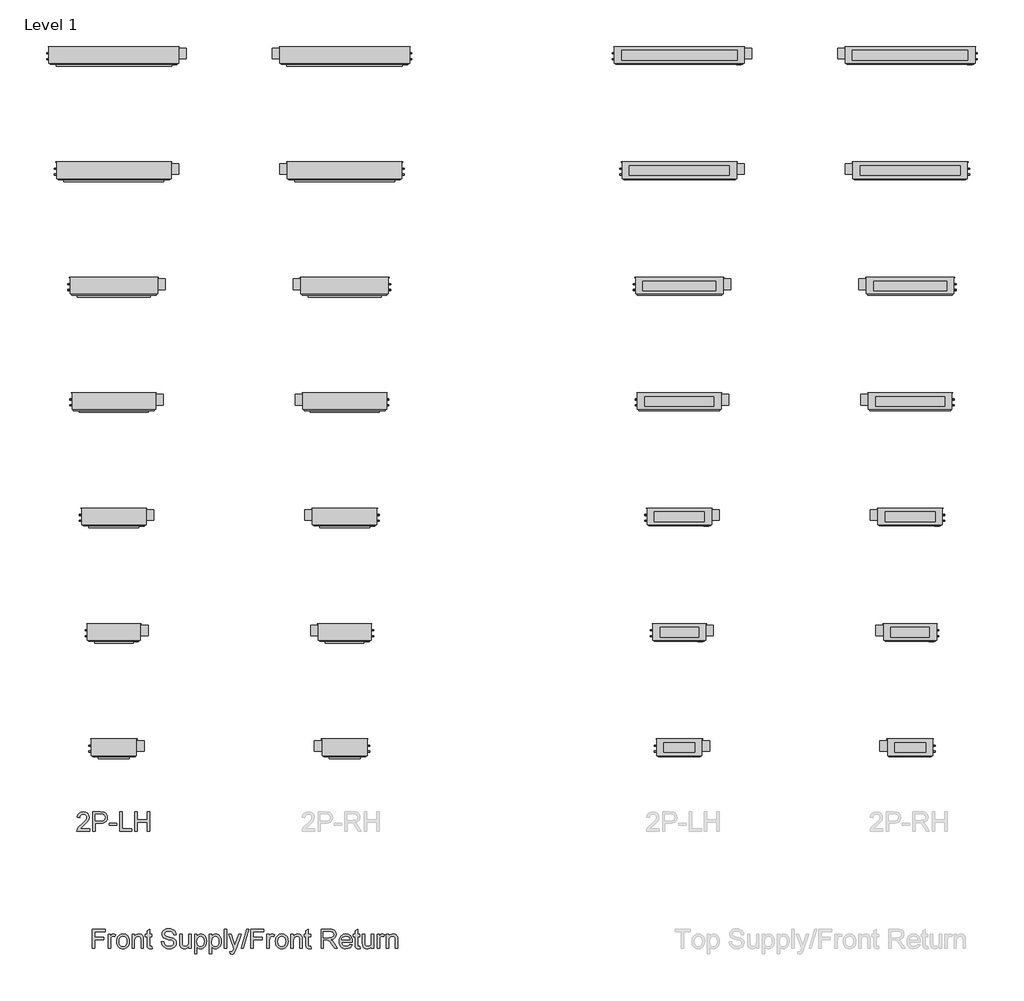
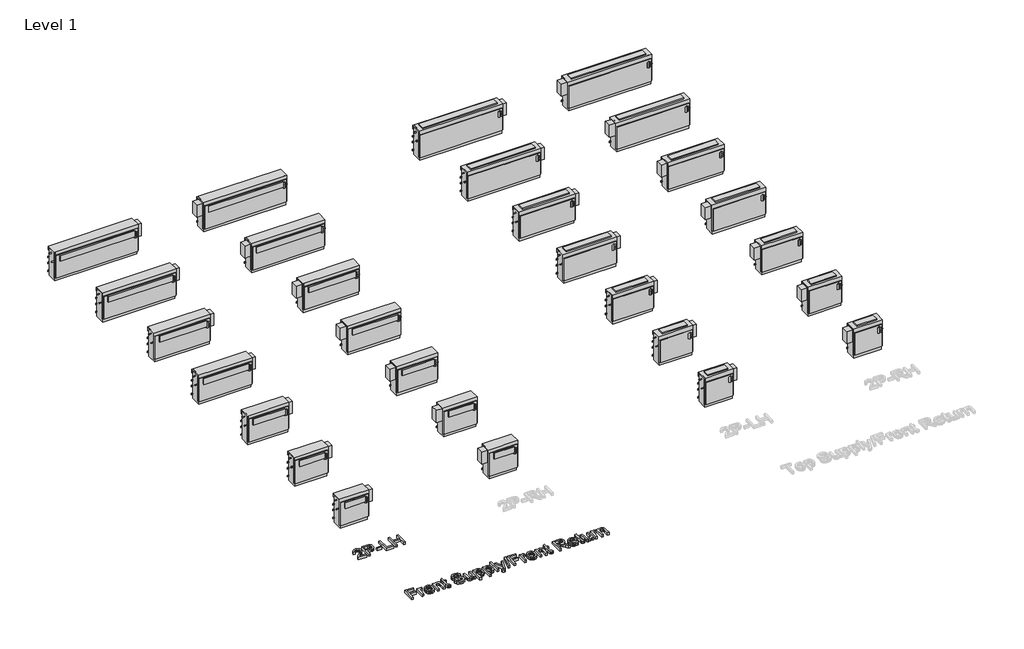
# One storey, part 1 of 2: 30 proxies.
"""IFC4 building model written with IfcOpenShell, lengths in millimetres."""

from ifc_helpers import new_model, si_unit, origin, origin_with_axes, place, context, project, spatial, polyline, outline, extrude, transform, mapped, element, save
from components import ghy_02_9b4a4b5f, ghy_02_a7a851d1, ghy_02_1b58b239, ghy_02_7dbef071, ghy_03_b27926b6, ghy_03_e5b2f905, ghy_03_1ddc801b, ghy_03_13433400, ghy_04_a8ed0f7e, ghy_04_f5d8f7c7, ghy_04_74227bf3, ghy_04_6b61c7ca, ghy_06_2a17fef1, ghy_06_2601881b, ghy_06_bd7a61ff, ghy_06_6341c722, ghy_08_79be1acd, ghy_08_3972cffb, ghy_08_0816bc91, ghy_08_5180b133, ghy_10_f1c1fad6, ghy_10_a8db0796, ghy_10_11aaa538, ghy_10_05654b98, ghy_12_f6d3734e, ghy_12_c026222b, ghy_12_9496aa0a, ghy_12_006c4f98

model = new_model("IFC4")

# Units and contexts
model_context = context("Model", 3, world=origin())
ifc_project = project(units=[si_unit("LENGTHUNIT", "METRE", prefix="MILLI")], contexts=[model_context])

# Site, building, storey
site = spatial("IfcSite", under=ifc_project)
building = spatial("IfcBuilding", under=site)
storey = spatial("IfcBuildingStorey", under=building, Name="Level 1", Elevation=0.0)

# Proxies
placement = place(None, origin())
element("IfcBuildingElementProxy", 1, Name="24\" Arial", ObjectType="24\" Arial", at=placement, inside=storey, context=model_context, shape_type="SweptSolid", body=[
    extrude(outline(polyline([(-19722.253563, -2284.938898), (-19722.253563, -2316.8337764), (-19889.701675, -2316.8337764), (-19886.2754673, -2294.8437528), (-19878.4107634, -2277.6582067), (-19866.9018205, -2260.9865918), (-19826.9709277, -2224.0146965), (-19792.5531145, -2193.4435801), (-19771.9024266, -2170.8773306), (-19761.5770826, -2152.5626934), (-19758.1353013, -2134.7464136), (-19761.3824117, -2118.7756138), (-19771.123743, -2105.4990592), (-19786.0978278, -2096.5519851), (-19805.0431987, -2093.5696271), (-19824.9385636, -2096.4819036), (-19840.3954322, -2105.2187331), (-19850.3703686, -2119.0948741), (-19853.8199367, -2137.425085), (-19885.7148152, -2133.4382252), (-19877.9824875, -2102.5867827), (-19861.2641515, -2080.0516806), (-19836.4319329, -2066.2689816), (-19804.3579572, -2061.6747487), (-19772.0503764, -2066.7829128), (-19747.2648788, -2082.1074052), (-19731.4965368, -2105.0007017), (-19726.2404228, -2132.8152784), (-19731.9092391, -2163.0593477), (-19750.7533812, -2194.3312793), (-19796.4465323, -2238.0310005), (-19833.1381014, -2268.7111326), (-19847.5281736, -2284.938898), (-19722.253563, -2284.938898)])), origin_with_axes(), (0.0, 0.0, 1.0), 50.8),
    extrude(outline(polyline([(-19678.3981051, -2316.8337764), (-19678.3981051, -2061.6747487), (-19583.834774, -2061.6747487), (-19545.7104271, -2064.1042414), (-19528.7117651, -2068.6439665), (-19514.7188215, -2076.0336734), (-19503.4512705, -2086.6081961), (-19494.6287858, -2100.7023685), (-19488.9288222, -2117.3272624), (-19487.0288343, -2135.4939498), (-19492.1603589, -2165.5667088), (-19507.5549328, -2190.6247456), (-19519.8834402, -2200.4906663), (-19536.3428639, -2207.5377525), (-19556.9332038, -2211.7660042), (-19581.6544601, -2213.1754214), (-19646.5032266, -2213.1754214), (-19646.5032266, -2316.8337764), (-19678.3981051, -2316.8337764)]), holes=[polyline([(-19646.5032266, -2181.2805429), (-19579.7856195, -2181.2805429), (-19551.5038327, -2178.3526928), (-19532.8154274, -2169.5691422), (-19522.3966414, -2155.4749699), (-19518.9237127, -2136.6152541), (-19520.9716505, -2122.2874767), (-19527.1154638, -2110.2023079), (-19536.5920426, -2101.107284), (-19548.6382773, -2095.7499411), (-19580.5331557, -2093.5696271), (-19646.5032266, -2093.5696271), (-19646.5032266, -2181.2805429)])]), origin_with_axes(), (0.0, 0.0, 1.0), 50.8),
    extrude(outline(polyline([(-19463.1076754, -2241.0834401), (-19463.1076754, -2209.1885616), (-19363.4361802, -2209.1885616), (-19363.4361802, -2241.0834401), (-19463.1076754, -2241.0834401)])), origin_with_axes(), (0.0, 0.0, 1.0), 50.8),
    extrude(outline(polyline([(-19323.5675821, -2316.8337764), (-19323.5675821, -2061.6747487), (-19291.6727036, -2061.6747487), (-19291.6727036, -2284.938898), (-19164.0931897, -2284.938898), (-19164.0931897, -2316.8337764), (-19323.5675821, -2316.8337764)])), origin_with_axes(), (0.0, 0.0, 1.0), 50.8),
    extrude(outline(polyline([(-19128.2114515, -2316.8337764), (-19128.2114515, -2061.6747487), (-19096.316573, -2061.6747487), (-19096.316573, -2165.3331037), (-18960.7633395, -2165.3331037), (-18960.7633395, -2061.6747487), (-18928.868461, -2061.6747487), (-18928.868461, -2316.8337764), (-18960.7633395, -2316.8337764), (-18960.7633395, -2197.2279822), (-19096.316573, -2197.2279822), (-19096.316573, -2316.8337764), (-19128.2114515, -2316.8337764)])), origin_with_axes(), (0.0, 0.0, 1.0), 50.8),
])
element("IfcBuildingElementProxy", 2, Name="24\" Arial", ObjectType="24\" Arial", at=placement, inside=storey, context=model_context, shape_type="SweptSolid", body=[
    extrude(outline(polyline([(-19688.2981561, -3865.3936295), (-19688.2981561, -3610.2346017), (-19516.8631843, -3610.2346017), (-19516.8631843, -3642.1294801), (-19656.4032777, -3642.1294801), (-19656.4032777, -3717.8798165), (-19536.7974834, -3717.8798165), (-19536.7974834, -3749.774695), (-19656.4032777, -3749.774695), (-19656.4032777, -3865.3936295), (-19688.2981561, -3865.3936295)])), origin_with_axes(), (0.0, 0.0, 1.0), 50.8),
    extrude(outline(polyline([(-19476.9945863, -3865.3936295), (-19476.9945863, -3678.0112184), (-19449.0865676, -3678.0112184), (-19449.0865676, -3705.732353), (-19438.7767973, -3689.6603244), (-19429.2768579, -3680.1915324), (-19419.7457712, -3675.5661521), (-19409.3425589, -3674.0243586), (-19393.4574143, -3676.4849987), (-19377.323091, -3683.8669188), (-19387.9754821, -3712.460179), (-19410.4015685, -3705.9192371), (-19419.9248684, -3707.4921779), (-19428.4358797, -3712.2110002), (-19435.3116555, -3719.7175097), (-19439.929249, -3729.6535119), (-19445.0997078, -3766.9057332), (-19445.0997078, -3865.3936295), (-19476.9945863, -3865.3936295)])), origin_with_axes(), (0.0, 0.0, 1.0), 50.8),
    extrude(outline(polyline([(-19365.3625116, -3771.7024239), (-19363.6377275, -3747.4347509), (-19358.4633753, -3726.523204), (-19349.8394549, -3708.9677832), (-19337.7659664, -3694.7684886), (-19312.1939984, -3679.2103911), (-19281.5761609, -3674.0243586), (-19263.9798593, -3675.6031395), (-19248.0694075, -3680.3394823), (-19233.8448056, -3688.2333868), (-19221.3060537, -3699.2848532), (-19211.072205, -3713.1201133), (-19203.7623131, -3729.365399), (-19199.376378, -3748.0207103), (-19197.9143996, -3769.0860472), (-19200.499629, -3801.3079728), (-19208.2553172, -3825.8365048), (-19220.9556461, -3844.2056499), (-19238.3747972, -3857.9494147), (-19259.0644193, -3866.5227206), (-19281.5761609, -3869.3804893), (-19299.4294282, -3867.8075485), (-19315.4878298, -3863.0887261), (-19329.7513659, -3855.2240222), (-19342.2200363, -3844.2134367), (-19352.3448692, -3830.2438537), (-19359.5768928, -3813.5021573), (-19363.9161069, -3793.9883473), (-19365.3625116, -3771.7024239)]), holes=[polyline([(-19333.4676331, -3771.6401293), (-19329.7766731, -3800.5059287), (-19318.7037929, -3821.0709614), (-19302.0399648, -3833.3819484), (-19281.5761609, -3837.4856108), (-19261.2057991, -3833.3585879), (-19244.5731183, -3820.9775194), (-19233.5002381, -3800.1399474), (-19229.8092781, -3770.6434143), (-19233.5235987, -3742.6185931), (-19244.6665603, -3722.3338865), (-19261.3226016, -3710.0228994), (-19281.5761609, -3705.9192371), (-19302.0399648, -3710.0073258), (-19318.7037929, -3722.2715918), (-19329.7766731, -3742.7899035), (-19333.4676331, -3771.6401293)])]), origin_with_axes(), (0.0, 0.0, 1.0), 50.8),
    extrude(outline(polyline([(-19162.0326613, -3865.3936295), (-19162.0326613, -3678.0112184), (-19130.1377829, -3678.0112184), (-19130.1377829, -3704.1749859), (-19119.0571159, -3690.9840865), (-19105.7494139, -3681.5620154), (-19090.2146769, -3675.9087728), (-19072.452905, -3674.0243586), (-19056.731284, -3675.5427916), (-19042.333425, -3680.0980904), (-19030.3261246, -3687.121816), (-19021.7761791, -3696.0455296), (-19012.2139451, -3719.4994783), (-19010.5319886, -3750.3353472), (-19010.5319886, -3865.3936295), (-19042.4268671, -3865.3936295), (-19042.4268671, -3754.6336804), (-19046.1022535, -3726.4141883), (-19051.1870571, -3718.0121927), (-19059.0906952, -3711.4946114), (-19080.9872768, -3705.9192371), (-19099.6678953, -3709.049545), (-19115.591974, -3718.4404687), (-19126.5013307, -3736.5837955), (-19130.1377829, -3765.971313), (-19130.1377829, -3865.3936295), (-19162.0326613, -3865.3936295)])), origin_with_axes(), (0.0, 0.0, 1.0), 50.8),
    extrude(outline(polyline([(-18898.8999139, -3838.7937992), (-18894.9130541, -3866.3280497), (-18918.7719183, -3869.3804893), (-18934.080837, -3868.0567272), (-18945.496338, -3864.0854411), (-18958.8274004, -3850.1937264), (-18962.6896709, -3814.0005147), (-18962.6896709, -3709.9060969), (-18986.6108297, -3709.9060969), (-18986.6108297, -3678.0112184), (-18962.6896709, -3678.0112184), (-18962.6896709, -3632.473804), (-18930.7947924, -3613.723104), (-18930.7947924, -3678.0112184), (-18898.8999139, -3678.0112184), (-18898.8999139, -3709.9060969), (-18930.7947924, -3709.9060969), (-18930.7947924, -3813.0660945), (-18929.1128359, -3829.5118912), (-18923.662051, -3835.3364442), (-18912.7916286, -3837.4856108), (-18898.8999139, -3838.7937992)])), origin_with_axes(), (0.0, 0.0, 1.0), 50.8),
    extrude(outline(polyline([(-18775.3072599, -3777.6827137), (-18743.4123814, -3777.6827137), (-18739.7525687, -3795.3821909), (-18733.1337584, -3809.6087395), (-18722.8084145, -3820.899651), (-18708.0290006, -3829.7922173), (-18689.9635421, -3835.5622624), (-18669.7800643, -3837.4856108), (-18652.0105055, -3836.0294725), (-18636.4524081, -3831.6610578), (-18623.8455213, -3824.7463478), (-18614.9295946, -3815.6513239), (-18609.6267595, -3805.2091774), (-18607.8591479, -3794.2530997), (-18613.1541961, -3774.349948), (-18621.2213577, -3766.4774573), (-18634.8327463, -3759.8664339), (-18681.2734336, -3747.6878231), (-18731.2649179, -3731.9584152), (-18747.1422756, -3721.2281558), (-18758.394253, -3708.2241404), (-18765.0987184, -3693.2266951), (-18767.3335402, -3676.516146), (-18764.5692136, -3657.8355275), (-18756.2762337, -3640.4163763), (-18742.672632, -3625.6525361), (-18723.9764398, -3614.9378504), (-18701.5347797, -3608.420269), (-18676.6947743, -3606.2477419), (-18649.7834706, -3608.5214978), (-18626.2360798, -3615.3427658), (-18606.8935803, -3626.5713827), (-18592.5969502, -3642.0671855), (-18583.5486472, -3660.8646065), (-18579.9511292, -3681.9980782), (-18611.8460077, -3681.9980782), (-18617.701708, -3662.9670521), (-18629.9114662, -3649.2310742), (-18648.9892133, -3640.9147338), (-18675.4488806, -3638.1426203), (-18702.5314947, -3640.8835865), (-18721.1108843, -3649.1064848), (-18731.8567174, -3661.2072273), (-18735.4386618, -3675.5817257), (-18732.9001534, -3687.8382049), (-18725.2846282, -3697.6963387), (-18707.2814644, -3706.5110366), (-18673.2062719, -3715.5126185), (-18616.7672878, -3731.5223524), (-18598.5850267, -3743.0935901), (-18585.9002716, -3757.3746465), (-18578.4482699, -3774.209785), (-18575.9642694, -3793.4432688), (-18578.8220381, -3813.1050286), (-18587.395344, -3831.5987631), (-18601.3337797, -3847.515055), (-18620.2869374, -3859.4444871), (-18643.0790051, -3866.8964887), (-18668.5341706, -3869.3804893), (-18699.7827417, -3866.7018178), (-18725.5026596, -3858.6658035), (-18745.989824, -3845.241299), (-18761.5401346, -3826.3971569), (-18771.5228578, -3803.4415657), (-18775.3072599, -3777.6827137)])), origin_with_axes(), (0.0, 0.0, 1.0), 50.8),
    extrude(outline(polyline([(-18412.5030172, -3865.3936295), (-18412.5030172, -3833.1872776), (-18424.0431075, -3849.0218077), (-18437.4831857, -3860.3321863), (-18452.8232518, -3867.1184135), (-18470.0633057, -3869.3804893), (-18485.5980427, -3867.7919748), (-18500.0581963, -3863.0264314), (-18512.1900861, -3855.8625427), (-18520.7400316, -3847.0789922), (-18530.239971, -3823.5938961), (-18532.1088115, -3793.9416263), (-18532.1088115, -3678.0112184), (-18500.213933, -3678.0112184), (-18500.213933, -3778.9286073), (-18498.2827978, -3811.4464327), (-18493.634057, -3822.2934946), (-18485.6681242, -3830.5397535), (-18474.9145043, -3835.7491465), (-18461.9027021, -3837.4856108), (-18448.1433636, -3835.7102123), (-18435.2717244, -3830.3840168), (-18424.6582675, -3821.9975949), (-18417.673476, -3811.0415172), (-18413.7956319, -3796.0362851), (-18412.5030172, -3775.5023997), (-18412.5030172, -3678.0112184), (-18380.6081388, -3678.0112184), (-18380.6081388, -3865.3936295), (-18412.5030172, -3865.3936295)])), origin_with_axes(), (0.0, 0.0, 1.0), 50.8),
    extrude(outline(polyline([(-18336.7526809, -3937.157106), (-18336.7526809, -3678.0112184), (-18304.8578024, -3678.0112184), (-18304.8578024, -3709.2831501), (-18294.4545901, -3693.8574288), (-18282.8054841, -3682.8390565), (-18269.2252428, -3676.2280331), (-18253.0286249, -3674.0243586), (-18231.4590904, -3677.1079455), (-18212.5993746, -3686.3587062), (-18197.2437349, -3701.2159884), (-18186.1864284, -3721.1191401), (-18179.5053235, -3744.6198098), (-18177.2782885, -3770.2696462), (-18179.7934364, -3797.5469312), (-18187.33888, -3821.943087), (-18199.6732276, -3842.2200068), (-18216.5550871, -3857.1395838), (-18236.2168469, -3866.3202629), (-18256.8908953, -3869.3804893), (-18271.5535067, -3867.3325515), (-18284.6431773, -3861.1887382), (-18304.8578024, -3840.4757556), (-18304.8578024, -3937.157106), (-18336.7526809, -3937.157106)]), holes=[polyline([(-18304.8578024, -3773.1974964), (-18301.4082342, -3801.7907566), (-18291.0595298, -3821.7873503), (-18275.7895452, -3833.5610457), (-18257.5761368, -3837.4856108), (-18239.0668287, -3833.4208826), (-18223.4075024, -3821.2266981), (-18212.7317508, -3800.4981419), (-18209.173167, -3770.8302984), (-18212.6460956, -3742.3927749), (-18223.0648816, -3722.1158551), (-18238.3115057, -3709.9683916), (-18256.2679485, -3705.9192371), (-18274.2944728, -3710.2253572), (-18290.1251095, -3723.1437174), (-18301.1746292, -3744.2694022), (-18304.8578024, -3773.1974964)])]), origin_with_axes(), (0.0, 0.0, 1.0), 50.8),
    extrude(outline(polyline([(-18141.3965502, -3937.157106), (-18141.3965502, -3678.0112184), (-18109.5016717, -3678.0112184), (-18109.5016717, -3709.2831501), (-18099.0984594, -3693.8574288), (-18087.4493534, -3682.8390565), (-18073.8691122, -3676.2280331), (-18057.6724942, -3674.0243586), (-18036.1029597, -3677.1079455), (-18017.243244, -3686.3587062), (-18001.8876042, -3701.2159884), (-17990.8302977, -3721.1191401), (-17984.1491928, -3744.6198098), (-17981.9221579, -3770.2696462), (-17984.4373057, -3797.5469312), (-17991.9827494, -3821.943087), (-18004.3170969, -3842.2200068), (-18021.1989564, -3857.1395838), (-18040.8607162, -3866.3202629), (-18061.5347647, -3869.3804893), (-18076.197376, -3867.3325515), (-18089.2870466, -3861.1887382), (-18109.5016717, -3840.4757556), (-18109.5016717, -3937.157106), (-18141.3965502, -3937.157106)]), holes=[polyline([(-18109.5016717, -3773.1974964), (-18106.0521036, -3801.7907566), (-18095.7033991, -3821.7873503), (-18080.4334146, -3833.5610457), (-18062.2200062, -3837.4856108), (-18043.7106981, -3833.4208826), (-18028.0513717, -3821.2266981), (-18017.3756202, -3800.4981419), (-18013.8170363, -3770.8302984), (-18017.289965, -3742.3927749), (-18027.708751, -3722.1158551), (-18042.955375, -3709.9683916), (-18060.9118178, -3705.9192371), (-18078.9383422, -3710.2253572), (-18094.7689789, -3723.1437174), (-18105.8184985, -3744.2694022), (-18109.5016717, -3773.1974964)])]), origin_with_axes(), (0.0, 0.0, 1.0), 50.8),
    extrude(outline(polyline([(-17946.0404196, -3865.3936295), (-17946.0404196, -3610.2346017), (-17914.1455411, -3610.2346017), (-17914.1455411, -3865.3936295), (-17946.0404196, -3865.3936295)])), origin_with_axes(), (0.0, 0.0, 1.0), 50.8),
    extrude(outline(polyline([(-17866.3032234, -3937.157106), (-17870.2900832, -3906.4458265), (-17854.0934652, -3909.2490874), (-17838.9558569, -3905.7294377), (-17829.6739489, -3895.9180249), (-17820.9526931, -3872.4329288), (-17818.4609057, -3864.7083879), (-17886.2375224, -3678.0112184), (-17852.5983928, -3678.0112184), (-17816.6543598, -3782.0433416), (-17804.1331282, -3823.6561908), (-17791.6118967, -3786.902327), (-17754.6711487, -3678.0112184), (-17721.2811978, -3678.0112184), (-17786.5037325, -3869.8788467), (-17803.4478867, -3911.491696), (-17812.1224215, -3924.7760375), (-17821.949408, -3933.9800771), (-17833.364909, -3939.3529936), (-17846.8049871, -3941.1439658), (-17866.3032234, -3937.157106)])), origin_with_axes(), (0.0, 0.0, 1.0), 50.8),
    extrude(outline(polyline([(-17718.7894105, -3865.3936295), (-17647.0259339, -3610.2346017), (-17618.2457896, -3610.2346017), (-17690.0092662, -3865.3936295), (-17718.7894105, -3865.3936295)])), origin_with_axes(), (0.0, 0.0, 1.0), 50.8),
    extrude(outline(polyline([(-17591.2098966, -3865.3936295), (-17591.2098966, -3610.2346017), (-17419.7749248, -3610.2346017), (-17419.7749248, -3642.1294801), (-17559.3150181, -3642.1294801), (-17559.3150181, -3717.8798165), (-17439.7092238, -3717.8798165), (-17439.7092238, -3749.774695), (-17559.3150181, -3749.774695), (-17559.3150181, -3865.3936295), (-17591.2098966, -3865.3936295)])), origin_with_axes(), (0.0, 0.0, 1.0), 50.8),
    extrude(outline(polyline([(-17379.9063267, -3865.3936295), (-17379.9063267, -3678.0112184), (-17351.998308, -3678.0112184), (-17351.998308, -3705.732353), (-17341.6885377, -3689.6603244), (-17332.1885983, -3680.1915324), (-17322.6575116, -3675.5661521), (-17312.2542993, -3674.0243586), (-17296.3691547, -3676.4849987), (-17280.2348315, -3683.8669188), (-17290.8872225, -3712.460179), (-17313.3133089, -3705.9192371), (-17322.8366088, -3707.4921779), (-17331.3476201, -3712.2110002), (-17338.2233959, -3719.7175097), (-17342.8409894, -3729.6535119), (-17348.0114482, -3766.9057332), (-17348.0114482, -3865.3936295), (-17379.9063267, -3865.3936295)])), origin_with_axes(), (0.0, 0.0, 1.0), 50.8),
    extrude(outline(polyline([(-17268.274252, -3771.7024239), (-17266.549468, -3747.4347509), (-17261.3751157, -3726.523204), (-17252.7511953, -3708.9677832), (-17240.6777068, -3694.7684886), (-17215.1057388, -3679.2103911), (-17184.4879014, -3674.0243586), (-17166.8915997, -3675.6031395), (-17150.9811479, -3680.3394823), (-17136.7565461, -3688.2333868), (-17124.2177941, -3699.2848532), (-17113.9839454, -3713.1201133), (-17106.6740536, -3729.365399), (-17102.2881184, -3748.0207103), (-17100.8261401, -3769.0860472), (-17103.4113695, -3801.3079728), (-17111.1670577, -3825.8365048), (-17123.8673865, -3844.2056499), (-17141.2865376, -3857.9494147), (-17161.9761597, -3866.5227206), (-17184.4879014, -3869.3804893), (-17202.3411686, -3867.8075485), (-17218.3995702, -3863.0887261), (-17232.6631063, -3855.2240222), (-17245.1317767, -3844.2134367), (-17255.2566097, -3830.2438537), (-17262.4886332, -3813.5021573), (-17266.8278473, -3793.9883473), (-17268.274252, -3771.7024239)]), holes=[polyline([(-17236.3793736, -3771.6401293), (-17232.6884135, -3800.5059287), (-17221.6155333, -3821.0709614), (-17204.9517052, -3833.3819484), (-17184.4879014, -3837.4856108), (-17164.1175395, -3833.3585879), (-17147.4848588, -3820.9775194), (-17136.4119786, -3800.1399474), (-17132.7210185, -3770.6434143), (-17136.4353391, -3742.6185931), (-17147.5783008, -3722.3338865), (-17164.2343421, -3710.0228994), (-17184.4879014, -3705.9192371), (-17204.9517052, -3710.0073258), (-17221.6155333, -3722.2715918), (-17232.6884135, -3742.7899035), (-17236.3793736, -3771.6401293)])]), origin_with_axes(), (0.0, 0.0, 1.0), 50.8),
    extrude(outline(polyline([(-17064.9444018, -3865.3936295), (-17064.9444018, -3678.0112184), (-17033.0495233, -3678.0112184), (-17033.0495233, -3704.1749859), (-17021.9688563, -3690.9840865), (-17008.6611543, -3681.5620154), (-16993.1264174, -3675.9087728), (-16975.3646454, -3674.0243586), (-16959.6430244, -3675.5427916), (-16945.2451655, -3680.0980904), (-16933.237865, -3687.121816), (-16924.6879196, -3696.0455296), (-16915.1256855, -3719.4994783), (-16913.443729, -3750.3353472), (-16913.443729, -3865.3936295), (-16945.3386075, -3865.3936295), (-16945.3386075, -3754.6336804), (-16949.0139939, -3726.4141883), (-16954.0987975, -3718.0121927), (-16962.0024356, -3711.4946114), (-16983.8990172, -3705.9192371), (-17002.5796357, -3709.049545), (-17018.5037145, -3718.4404687), (-17029.4130711, -3736.5837955), (-17033.0495233, -3765.971313), (-17033.0495233, -3865.3936295), (-17064.9444018, -3865.3936295)])), origin_with_axes(), (0.0, 0.0, 1.0), 50.8),
    extrude(outline(polyline([(-16801.8116544, -3838.7937992), (-16797.8247946, -3866.3280497), (-16821.6836587, -3869.3804893), (-16836.9925775, -3868.0567272), (-16848.4080784, -3864.0854411), (-16861.7391409, -3850.1937264), (-16865.6014113, -3814.0005147), (-16865.6014113, -3709.9060969), (-16889.5225702, -3709.9060969), (-16889.5225702, -3678.0112184), (-16865.6014113, -3678.0112184), (-16865.6014113, -3632.473804), (-16833.7065328, -3613.723104), (-16833.7065328, -3678.0112184), (-16801.8116544, -3678.0112184), (-16801.8116544, -3709.9060969), (-16833.7065328, -3709.9060969), (-16833.7065328, -3813.0660945), (-16832.0245764, -3829.5118912), (-16826.5737915, -3835.3364442), (-16815.703369, -3837.4856108), (-16801.8116544, -3838.7937992)])), origin_with_axes(), (0.0, 0.0, 1.0), 50.8),
    extrude(outline(polyline([(-16666.2584209, -3865.3936295), (-16666.2584209, -3610.2346017), (-16556.3083027, -3610.2346017), (-16526.7572617, -3611.9554923), (-16505.2578087, -3617.1181643), (-16489.5439746, -3626.649251), (-16477.3497901, -3641.475386), (-16469.5240203, -3659.8601047), (-16466.9154304, -3680.066943), (-16471.2371241, -3705.2028482), (-16484.2022054, -3726.0404202), (-16506.2000158, -3741.3181916), (-16537.6198973, -3749.774695), (-16519.4921441, -3763.4172309), (-16493.6398501, -3796.2465296), (-16451.0925805, -3865.3936295), (-16488.1579178, -3865.3936295), (-16521.3609847, -3812.5054423), (-16545.3444382, -3777.4958296), (-16562.1951504, -3760.9565909), (-16577.3639061, -3754.8828591), (-16595.8654274, -3753.7615548), (-16634.3635424, -3753.7615548), (-16634.3635424, -3865.3936295), (-16666.2584209, -3865.3936295)]), holes=[polyline([(-16634.3635424, -3721.8666763), (-16562.9738339, -3721.8666763), (-16526.5625908, -3717.3503117), (-16514.5864377, -3711.4790377), (-16505.8807556, -3702.8979449), (-16500.5779206, -3692.5180931), (-16498.8103089, -3681.250542), (-16502.1820087, -3665.6924446), (-16512.2971081, -3653.1556393), (-16529.7006856, -3644.8860199), (-16554.9378196, -3642.1294801), (-16634.3635424, -3642.1294801), (-16634.3635424, -3721.8666763)])]), origin_with_axes(), (0.0, 0.0, 1.0), 50.8),
    extrude(outline(polyline([(-16283.8936473, -3809.5775921), (-16252.6217157, -3813.5644519), (-16263.8892667, -3837.1274164), (-16281.8690701, -3854.7412384), (-16306.1562102, -3865.7206765), (-16336.3457717, -3869.3804893), (-16356.1360143, -3867.8017084), (-16373.7693034, -3863.0653656), (-16389.2456391, -3855.1714611), (-16402.5650213, -3844.1199947), (-16413.2758136, -3830.2185465), (-16420.9263796, -3813.7746965), (-16425.5167191, -3794.7884447), (-16427.0468323, -3773.2597911), (-16425.5011455, -3751.0011216), (-16420.8640849, -3731.3821894), (-16413.1356506, -3714.4029944), (-16402.3158426, -3700.0635367), (-16389.0315011, -3688.6713963), (-16373.9094664, -3680.5341532), (-16356.9497386, -3675.6518073), (-16338.1523175, -3674.0243586), (-16319.9603229, -3675.6479138), (-16303.5086861, -3680.5185795), (-16288.797407, -3688.6363556), (-16275.8264857, -3700.0012421), (-16265.238336, -3714.3095524), (-16257.675372, -3731.2576), (-16253.1375935, -3750.8453849), (-16251.6250007, -3773.072907), (-16251.8118848, -3781.6695735), (-16395.1519538, -3781.6695735), (-16389.6310874, -3805.5440113), (-16376.8061693, -3823.0955387), (-16358.2968611, -3833.8880928), (-16335.7228248, -3837.4856108), (-16318.7475233, -3835.819228), (-16304.4508932, -3830.8200795), (-16292.8329345, -3822.1766921), (-16283.8936473, -3809.5775921)]), holes=[polyline([(-16395.1519538, -3749.774695), (-16283.5198792, -3749.774695), (-16287.8337861, -3732.9239828), (-16296.2902895, -3720.8699614), (-16314.8852528, -3709.6569182), (-16338.2769069, -3705.9192371), (-16359.7763599, -3708.9015951), (-16377.5537055, -3717.8486692), (-16389.9114135, -3731.7948917), (-16395.1519538, -3749.774695)])]), origin_with_axes(), (0.0, 0.0, 1.0), 50.8),
    extrude(outline(polyline([(-16151.9535055, -3838.7937992), (-16147.9666457, -3866.3280497), (-16171.8255099, -3869.3804893), (-16187.1344286, -3868.0567272), (-16198.5499295, -3864.0854411), (-16211.880992, -3850.1937264), (-16215.7432624, -3814.0005147), (-16215.7432624, -3709.9060969), (-16239.6644213, -3709.9060969), (-16239.6644213, -3678.0112184), (-16215.7432624, -3678.0112184), (-16215.7432624, -3632.473804), (-16183.848384, -3613.723104), (-16183.848384, -3678.0112184), (-16151.9535055, -3678.0112184), (-16151.9535055, -3709.9060969), (-16183.848384, -3709.9060969), (-16183.848384, -3813.0660945), (-16182.1664275, -3829.5118912), (-16176.7156426, -3835.3364442), (-16165.8452201, -3837.4856108), (-16151.9535055, -3838.7937992)])), origin_with_axes(), (0.0, 0.0, 1.0), 50.8),
    extrude(outline(polyline([(-16000.4528327, -3865.3936295), (-16000.4528327, -3833.1872776), (-16011.9929231, -3849.0218077), (-16025.4330012, -3860.3321863), (-16040.7730673, -3867.1184135), (-16058.0131212, -3869.3804893), (-16073.5478582, -3867.7919748), (-16088.0080118, -3863.0264314), (-16100.1399016, -3855.8625427), (-16108.6898471, -3847.0789922), (-16118.1897865, -3823.5938961), (-16120.058627, -3793.9416263), (-16120.058627, -3678.0112184), (-16088.1637485, -3678.0112184), (-16088.1637485, -3778.9286073), (-16086.2326133, -3811.4464327), (-16081.5838725, -3822.2934946), (-16073.6179397, -3830.5397535), (-16062.8643198, -3835.7491465), (-16049.8525176, -3837.4856108), (-16036.0931791, -3835.7102123), (-16023.2215399, -3830.3840168), (-16012.6080831, -3821.9975949), (-16005.6232916, -3811.0415172), (-16001.7454475, -3796.0362851), (-16000.4528327, -3775.5023997), (-16000.4528327, -3678.0112184), (-15968.5579543, -3678.0112184), (-15968.5579543, -3865.3936295), (-16000.4528327, -3865.3936295)])), origin_with_axes(), (0.0, 0.0, 1.0), 50.8),
    extrude(outline(polyline([(-15924.7024964, -3865.3936295), (-15924.7024964, -3678.0112184), (-15896.7944777, -3678.0112184), (-15896.7944777, -3705.732353), (-15886.4847074, -3689.6603244), (-15876.984768, -3680.1915324), (-15867.4536813, -3675.5661521), (-15857.050469, -3674.0243586), (-15841.1653244, -3676.4849987), (-15825.0310012, -3683.8669188), (-15835.6833922, -3712.460179), (-15858.1094786, -3705.9192371), (-15867.6327785, -3707.4921779), (-15876.1437898, -3712.2110002), (-15883.0195656, -3719.7175097), (-15887.6371591, -3729.6535119), (-15892.8076179, -3766.9057332), (-15892.8076179, -3865.3936295), (-15924.7024964, -3865.3936295)])), origin_with_axes(), (0.0, 0.0, 1.0), 50.8),
    extrude(outline(polyline([(-15805.0967021, -3865.3936295), (-15805.0967021, -3678.0112184), (-15773.2018236, -3678.0112184), (-15773.2018236, -3704.1749859), (-15762.1211566, -3690.9840865), (-15748.8134546, -3681.5620154), (-15733.2787177, -3675.9087728), (-15715.5169458, -3674.0243586), (-15699.7953248, -3675.5427916), (-15685.3974658, -3680.0980904), (-15673.3901654, -3687.121816), (-15664.8402199, -3696.0455296), (-15655.2779858, -3719.4994783), (-15653.5960294, -3750.3353472), (-15653.5960294, -3865.3936295), (-15685.4909078, -3865.3936295), (-15685.4909078, -3754.6336804), (-15689.1662942, -3726.4141883), (-15694.2510978, -3718.0121927), (-15702.1547359, -3711.4946114), (-15724.0513175, -3705.9192371), (-15742.7319361, -3709.049545), (-15758.6560148, -3718.4404687), (-15769.5653714, -3736.5837955), (-15773.2018236, -3765.971313), (-15773.2018236, -3865.3936295), (-15805.0967021, -3865.3936295)])), origin_with_axes(), (0.0, 0.0, 1.0), 50.8),
])
ghy_02_shape = ghy_02_9b4a4b5f(model_context)
element("IfcBuildingElementProxy", 3, Name="Vertical_Fan_Coil_Unit_-_GHY_-_IEC_-_2-Pipe_FS-FR_LH_2022 : GHY 02", ObjectType="Vertical_Fan_Coil_Unit_-_GHY_-_IEC_-_2-Pipe_FS-FR_LH_2022 : GHY 02", at=placement, inside=storey, context=model_context, shape_type="MappedRepresentation", body=[
    mapped(ghy_02_shape, transform((-19554.2915851, -1343.5281597, 0.0), x_axis=(1.0, 0.0, 0.0), y_axis=(0.0, 1.0, 0.0), z_axis=(0.0, 0.0, 1.0))),
])
ghy_02_2_shape = ghy_02_a7a851d1(model_context)
element("IfcBuildingElementProxy", 4, Name="Vertical_Fan_Coil_Unit_-_GHY_-_IEC_-_2-Pipe_FS-FR_RH_2022 : GHY 02", ObjectType="Vertical_Fan_Coil_Unit_-_GHY_-_IEC_-_2-Pipe_FS-FR_RH_2022 : GHY 02", at=placement, inside=storey, context=model_context, shape_type="MappedRepresentation", body=[
    mapped(ghy_02_2_shape, transform((-16506.2915851, -1343.5281597, 0.0), x_axis=(1.0, 0.0, 0.0), y_axis=(0.0, 1.0, 0.0), z_axis=(0.0, 0.0, 1.0))),
])
ghy_02_3_shape = ghy_02_1b58b239(model_context)
element("IfcBuildingElementProxy", 5, Name="Vertical_Fan_Coil_Unit_-_GHY_-_IEC_-_2-Pipe_TS-FR_LH_2022 : GHY 02", ObjectType="Vertical_Fan_Coil_Unit_-_GHY_-_IEC_-_2-Pipe_TS-FR_LH_2022 : GHY 02", at=placement, inside=storey, context=model_context, shape_type="MappedRepresentation", body=[
    mapped(ghy_02_3_shape, transform((-12086.6915851, -1343.5281597, 0.0), x_axis=(1.0, 0.0, 0.0), y_axis=(0.0, 1.0, 0.0), z_axis=(0.0, 0.0, 1.0))),
])
ghy_02_4_shape = ghy_02_7dbef071(model_context)
element("IfcBuildingElementProxy", 6, Name="Vertical_Fan_Coil_Unit_-_GHY_-_IEC_-_2-Pipe_TS-FR_RH_2022 : GHY 02", ObjectType="Vertical_Fan_Coil_Unit_-_GHY_-_IEC_-_2-Pipe_TS-FR_RH_2022 : GHY 02", at=placement, inside=storey, context=model_context, shape_type="MappedRepresentation", body=[
    mapped(ghy_02_4_shape, transform((-9038.6915851, -1343.5281597, 0.0), x_axis=(1.0, 0.0, 0.0), y_axis=(0.0, 1.0, 0.0), z_axis=(0.0, 0.0, 1.0))),
])
ghy_03_shape = ghy_03_b27926b6(model_context)
element("IfcBuildingElementProxy", 7, Name="Vertical_Fan_Coil_Unit_-_GHY_-_IEC_-_2-Pipe_FS-FR_LH_2022 : GHY 03", ObjectType="Vertical_Fan_Coil_Unit_-_GHY_-_IEC_-_2-Pipe_FS-FR_LH_2022 : GHY 03", at=placement, inside=storey, context=model_context, shape_type="MappedRepresentation", body=[
    mapped(ghy_03_shape, transform((-19554.2915851, 180.4718403, 0.0), x_axis=(1.0, 0.0, 0.0), y_axis=(0.0, 1.0, 0.0), z_axis=(0.0, 0.0, 1.0))),
])
ghy_03_2_shape = ghy_03_e5b2f905(model_context)
element("IfcBuildingElementProxy", 8, Name="Vertical_Fan_Coil_Unit_-_GHY_-_IEC_-_2-Pipe_FS-FR_RH_2022 : GHY 03", ObjectType="Vertical_Fan_Coil_Unit_-_GHY_-_IEC_-_2-Pipe_FS-FR_RH_2022 : GHY 03", at=placement, inside=storey, context=model_context, shape_type="MappedRepresentation", body=[
    mapped(ghy_03_2_shape, transform((-16506.2915851, 180.4718403, 0.0), x_axis=(1.0, 0.0, 0.0), y_axis=(0.0, 1.0, 0.0), z_axis=(0.0, 0.0, 1.0))),
])
ghy_03_3_shape = ghy_03_1ddc801b(model_context)
element("IfcBuildingElementProxy", 9, Name="Vertical_Fan_Coil_Unit_-_GHY_-_IEC_-_2-Pipe_TS-FR_LH_2022 : GHY 03", ObjectType="Vertical_Fan_Coil_Unit_-_GHY_-_IEC_-_2-Pipe_TS-FR_LH_2022 : GHY 03", at=placement, inside=storey, context=model_context, shape_type="MappedRepresentation", body=[
    mapped(ghy_03_3_shape, transform((-12086.6915851, 180.4718403, 0.0), x_axis=(1.0, 0.0, 0.0), y_axis=(0.0, 1.0, 0.0), z_axis=(0.0, 0.0, 1.0))),
])
ghy_03_4_shape = ghy_03_13433400(model_context)
element("IfcBuildingElementProxy", 10, Name="Vertical_Fan_Coil_Unit_-_GHY_-_IEC_-_2-Pipe_TS-FR_RH_2022 : GHY 03", ObjectType="Vertical_Fan_Coil_Unit_-_GHY_-_IEC_-_2-Pipe_TS-FR_RH_2022 : GHY 03", at=placement, inside=storey, context=model_context, shape_type="MappedRepresentation", body=[
    mapped(ghy_03_4_shape, transform((-9038.6915851, 180.4718403, 0.0), x_axis=(1.0, 0.0, 0.0), y_axis=(0.0, 1.0, 0.0), z_axis=(0.0, 0.0, 1.0))),
])
ghy_04_shape = ghy_04_a8ed0f7e(model_context)
element("IfcBuildingElementProxy", 11, Name="Vertical_Fan_Coil_Unit_-_GHY_-_IEC_-_2-Pipe_FS-FR_LH_2022 : GHY 04", ObjectType="Vertical_Fan_Coil_Unit_-_GHY_-_IEC_-_2-Pipe_FS-FR_LH_2022 : GHY 04", at=placement, inside=storey, context=model_context, shape_type="MappedRepresentation", body=[
    mapped(ghy_04_shape, transform((-19554.2915851, 1704.4718403, 0.0), x_axis=(1.0, 0.0, 0.0), y_axis=(0.0, 1.0, 0.0), z_axis=(0.0, 0.0, 1.0))),
])
ghy_04_2_shape = ghy_04_f5d8f7c7(model_context)
element("IfcBuildingElementProxy", 12, Name="Vertical_Fan_Coil_Unit_-_GHY_-_IEC_-_2-Pipe_FS-FR_RH_2022 : GHY 04", ObjectType="Vertical_Fan_Coil_Unit_-_GHY_-_IEC_-_2-Pipe_FS-FR_RH_2022 : GHY 04", at=placement, inside=storey, context=model_context, shape_type="MappedRepresentation", body=[
    mapped(ghy_04_2_shape, transform((-16506.2915851, 1704.4718403, 0.0), x_axis=(1.0, 0.0, 0.0), y_axis=(0.0, 1.0, 0.0), z_axis=(0.0, 0.0, 1.0))),
])
ghy_04_3_shape = ghy_04_74227bf3(model_context)
element("IfcBuildingElementProxy", 13, Name="Vertical_Fan_Coil_Unit_-_GHY_-_IEC_-_2-Pipe_TS-FR_LH_2022 : GHY 04", ObjectType="Vertical_Fan_Coil_Unit_-_GHY_-_IEC_-_2-Pipe_TS-FR_LH_2022 : GHY 04", at=placement, inside=storey, context=model_context, shape_type="MappedRepresentation", body=[
    mapped(ghy_04_3_shape, transform((-12086.6915851, 1704.4718403, 0.0), x_axis=(1.0, 0.0, 0.0), y_axis=(0.0, 1.0, 0.0), z_axis=(0.0, 0.0, 1.0))),
])
ghy_04_4_shape = ghy_04_6b61c7ca(model_context)
element("IfcBuildingElementProxy", 14, Name="Vertical_Fan_Coil_Unit_-_GHY_-_IEC_-_2-Pipe_TS-FR_RH_2022 : GHY 04", ObjectType="Vertical_Fan_Coil_Unit_-_GHY_-_IEC_-_2-Pipe_TS-FR_RH_2022 : GHY 04", at=placement, inside=storey, context=model_context, shape_type="MappedRepresentation", body=[
    mapped(ghy_04_4_shape, transform((-9038.6915851, 1704.4718403, 0.0), x_axis=(1.0, 0.0, 0.0), y_axis=(0.0, 1.0, 0.0), z_axis=(0.0, 0.0, 1.0))),
])
ghy_06_shape = ghy_06_2a17fef1(model_context)
element("IfcBuildingElementProxy", 15, Name="Vertical_Fan_Coil_Unit_-_GHY_-_IEC_-_2-Pipe_FS-FR_LH_2022 : GHY 06", ObjectType="Vertical_Fan_Coil_Unit_-_GHY_-_IEC_-_2-Pipe_FS-FR_LH_2022 : GHY 06", at=placement, inside=storey, context=model_context, shape_type="MappedRepresentation", body=[
    mapped(ghy_06_shape, transform((-19554.2915851, 3228.4718403, 0.0), x_axis=(1.0, 0.0, 0.0), y_axis=(0.0, 1.0, 0.0), z_axis=(0.0, 0.0, 1.0))),
])
ghy_06_2_shape = ghy_06_2601881b(model_context)
element("IfcBuildingElementProxy", 16, Name="Vertical_Fan_Coil_Unit_-_GHY_-_IEC_-_2-Pipe_FS-FR_RH_2022 : GHY 06", ObjectType="Vertical_Fan_Coil_Unit_-_GHY_-_IEC_-_2-Pipe_FS-FR_RH_2022 : GHY 06", at=placement, inside=storey, context=model_context, shape_type="MappedRepresentation", body=[
    mapped(ghy_06_2_shape, transform((-16506.2915851, 3228.4718403, 0.0), x_axis=(1.0, 0.0, 0.0), y_axis=(0.0, 1.0, 0.0), z_axis=(0.0, 0.0, 1.0))),
])
ghy_06_3_shape = ghy_06_bd7a61ff(model_context)
element("IfcBuildingElementProxy", 17, Name="Vertical_Fan_Coil_Unit_-_GHY_-_IEC_-_2-Pipe_TS-FR_LH_2022 : GHY 06", ObjectType="Vertical_Fan_Coil_Unit_-_GHY_-_IEC_-_2-Pipe_TS-FR_LH_2022 : GHY 06", at=placement, inside=storey, context=model_context, shape_type="MappedRepresentation", body=[
    mapped(ghy_06_3_shape, transform((-12086.6915851, 3228.4718403, 0.0), x_axis=(1.0, 0.0, 0.0), y_axis=(0.0, 1.0, 0.0), z_axis=(0.0, 0.0, 1.0))),
])
ghy_06_4_shape = ghy_06_6341c722(model_context)
element("IfcBuildingElementProxy", 18, Name="Vertical_Fan_Coil_Unit_-_GHY_-_IEC_-_2-Pipe_TS-FR_RH_2022 : GHY 06", ObjectType="Vertical_Fan_Coil_Unit_-_GHY_-_IEC_-_2-Pipe_TS-FR_RH_2022 : GHY 06", at=placement, inside=storey, context=model_context, shape_type="MappedRepresentation", body=[
    mapped(ghy_06_4_shape, transform((-9038.6915851, 3228.4718403, 0.0), x_axis=(1.0, 0.0, 0.0), y_axis=(0.0, 1.0, 0.0), z_axis=(0.0, 0.0, 1.0))),
])
ghy_08_shape = ghy_08_79be1acd(model_context)
element("IfcBuildingElementProxy", 19, Name="Vertical_Fan_Coil_Unit_-_GHY_-_IEC_-_2-Pipe_FS-FR_LH_2022 : GHY 08", ObjectType="Vertical_Fan_Coil_Unit_-_GHY_-_IEC_-_2-Pipe_FS-FR_LH_2022 : GHY 08", at=placement, inside=storey, context=model_context, shape_type="MappedRepresentation", body=[
    mapped(ghy_08_shape, transform((-19554.2915851, 4752.4718403, 0.0), x_axis=(1.0, 0.0, 0.0), y_axis=(0.0, 1.0, 0.0), z_axis=(0.0, 0.0, 1.0))),
])
ghy_08_2_shape = ghy_08_3972cffb(model_context)
element("IfcBuildingElementProxy", 20, Name="Vertical_Fan_Coil_Unit_-_GHY_-_IEC_-_2-Pipe_FS-FR_RH_2022 : GHY 08", ObjectType="Vertical_Fan_Coil_Unit_-_GHY_-_IEC_-_2-Pipe_FS-FR_RH_2022 : GHY 08", at=placement, inside=storey, context=model_context, shape_type="MappedRepresentation", body=[
    mapped(ghy_08_2_shape, transform((-16506.2915851, 4752.4718403, 0.0), x_axis=(1.0, 0.0, 0.0), y_axis=(0.0, 1.0, 0.0), z_axis=(0.0, 0.0, 1.0))),
])
ghy_08_3_shape = ghy_08_0816bc91(model_context)
element("IfcBuildingElementProxy", 21, Name="Vertical_Fan_Coil_Unit_-_GHY_-_IEC_-_2-Pipe_TS-FR_LH_2022 : GHY 08", ObjectType="Vertical_Fan_Coil_Unit_-_GHY_-_IEC_-_2-Pipe_TS-FR_LH_2022 : GHY 08", at=placement, inside=storey, context=model_context, shape_type="MappedRepresentation", body=[
    mapped(ghy_08_3_shape, transform((-12086.6915851, 4752.4718403, 0.0), x_axis=(1.0, 0.0, 0.0), y_axis=(0.0, 1.0, 0.0), z_axis=(0.0, 0.0, 1.0))),
])
ghy_08_4_shape = ghy_08_5180b133(model_context)
element("IfcBuildingElementProxy", 22, Name="Vertical_Fan_Coil_Unit_-_GHY_-_IEC_-_2-Pipe_TS-FR_RH_2022 : GHY 08", ObjectType="Vertical_Fan_Coil_Unit_-_GHY_-_IEC_-_2-Pipe_TS-FR_RH_2022 : GHY 08", at=placement, inside=storey, context=model_context, shape_type="MappedRepresentation", body=[
    mapped(ghy_08_4_shape, transform((-9038.6915851, 4752.4718403, 0.0), x_axis=(1.0, 0.0, 0.0), y_axis=(0.0, 1.0, 0.0), z_axis=(0.0, 0.0, 1.0))),
])
ghy_10_shape = ghy_10_f1c1fad6(model_context)
element("IfcBuildingElementProxy", 23, Name="Vertical_Fan_Coil_Unit_-_GHY_-_IEC_-_2-Pipe_FS-FR_LH_2022 : GHY 10", ObjectType="Vertical_Fan_Coil_Unit_-_GHY_-_IEC_-_2-Pipe_FS-FR_LH_2022 : GHY 10", at=placement, inside=storey, context=model_context, shape_type="MappedRepresentation", body=[
    mapped(ghy_10_shape, transform((-19554.2915851, 6276.4718403, 0.0), x_axis=(1.0, 0.0, 0.0), y_axis=(0.0, 1.0, 0.0), z_axis=(0.0, 0.0, 1.0))),
])
ghy_10_2_shape = ghy_10_a8db0796(model_context)
element("IfcBuildingElementProxy", 24, Name="Vertical_Fan_Coil_Unit_-_GHY_-_IEC_-_2-Pipe_FS-FR_RH_2022 : GHY 10", ObjectType="Vertical_Fan_Coil_Unit_-_GHY_-_IEC_-_2-Pipe_FS-FR_RH_2022 : GHY 10", at=placement, inside=storey, context=model_context, shape_type="MappedRepresentation", body=[
    mapped(ghy_10_2_shape, transform((-16506.2915851, 6276.4718403, 0.0), x_axis=(1.0, 0.0, 0.0), y_axis=(0.0, 1.0, 0.0), z_axis=(0.0, 0.0, 1.0))),
])
ghy_10_3_shape = ghy_10_11aaa538(model_context)
element("IfcBuildingElementProxy", 25, Name="Vertical_Fan_Coil_Unit_-_GHY_-_IEC_-_2-Pipe_TS-FR_LH_2022 : GHY 10", ObjectType="Vertical_Fan_Coil_Unit_-_GHY_-_IEC_-_2-Pipe_TS-FR_LH_2022 : GHY 10", at=placement, inside=storey, context=model_context, shape_type="MappedRepresentation", body=[
    mapped(ghy_10_3_shape, transform((-12086.6915851, 6276.4718403, 0.0), x_axis=(1.0, 0.0, 0.0), y_axis=(0.0, 1.0, 0.0), z_axis=(0.0, 0.0, 1.0))),
])
ghy_10_4_shape = ghy_10_05654b98(model_context)
element("IfcBuildingElementProxy", 26, Name="Vertical_Fan_Coil_Unit_-_GHY_-_IEC_-_2-Pipe_TS-FR_RH_2022 : GHY 10", ObjectType="Vertical_Fan_Coil_Unit_-_GHY_-_IEC_-_2-Pipe_TS-FR_RH_2022 : GHY 10", at=placement, inside=storey, context=model_context, shape_type="MappedRepresentation", body=[
    mapped(ghy_10_4_shape, transform((-9038.6915851, 6276.4718403, 0.0), x_axis=(1.0, 0.0, 0.0), y_axis=(0.0, 1.0, 0.0), z_axis=(0.0, 0.0, 1.0))),
])
ghy_12_shape = ghy_12_f6d3734e(model_context)
element("IfcBuildingElementProxy", 27, Name="Vertical_Fan_Coil_Unit_-_GHY_-_IEC_-_2-Pipe_FS-FR_LH_2022 : GHY 12", ObjectType="Vertical_Fan_Coil_Unit_-_GHY_-_IEC_-_2-Pipe_FS-FR_LH_2022 : GHY 12", at=placement, inside=storey, context=model_context, shape_type="MappedRepresentation", body=[
    mapped(ghy_12_shape, transform((-19554.2915851, 7800.4718403, 0.0), x_axis=(1.0, 0.0, 0.0), y_axis=(0.0, 1.0, 0.0), z_axis=(0.0, 0.0, 1.0))),
])
ghy_12_2_shape = ghy_12_c026222b(model_context)
element("IfcBuildingElementProxy", 28, Name="Vertical_Fan_Coil_Unit_-_GHY_-_IEC_-_2-Pipe_FS-FR_RH_2022 : GHY 12", ObjectType="Vertical_Fan_Coil_Unit_-_GHY_-_IEC_-_2-Pipe_FS-FR_RH_2022 : GHY 12", at=placement, inside=storey, context=model_context, shape_type="MappedRepresentation", body=[
    mapped(ghy_12_2_shape, transform((-16506.2915851, 7800.4718403, 0.0), x_axis=(1.0, 0.0, 0.0), y_axis=(0.0, 1.0, 0.0), z_axis=(0.0, 0.0, 1.0))),
])
ghy_12_3_shape = ghy_12_9496aa0a(model_context)
element("IfcBuildingElementProxy", 29, Name="Vertical_Fan_Coil_Unit_-_GHY_-_IEC_-_2-Pipe_TS-FR_LH_2022 : GHY 12", ObjectType="Vertical_Fan_Coil_Unit_-_GHY_-_IEC_-_2-Pipe_TS-FR_LH_2022 : GHY 12", at=placement, inside=storey, context=model_context, shape_type="MappedRepresentation", body=[
    mapped(ghy_12_3_shape, transform((-12086.6915851, 7800.4718403, 0.0), x_axis=(1.0, 0.0, 0.0), y_axis=(0.0, 1.0, 0.0), z_axis=(0.0, 0.0, 1.0))),
])
ghy_12_4_shape = ghy_12_006c4f98(model_context)
element("IfcBuildingElementProxy", 30, Name="Vertical_Fan_Coil_Unit_-_GHY_-_IEC_-_2-Pipe_TS-FR_RH_2022 : GHY 12", ObjectType="Vertical_Fan_Coil_Unit_-_GHY_-_IEC_-_2-Pipe_TS-FR_RH_2022 : GHY 12", at=placement, inside=storey, context=model_context, shape_type="MappedRepresentation", body=[
    mapped(ghy_12_4_shape, transform((-9038.6915851, 7800.4718403, 0.0), x_axis=(1.0, 0.0, 0.0), y_axis=(0.0, 1.0, 0.0), z_axis=(0.0, 0.0, 1.0))),
])

save(model, "model.ifc")
